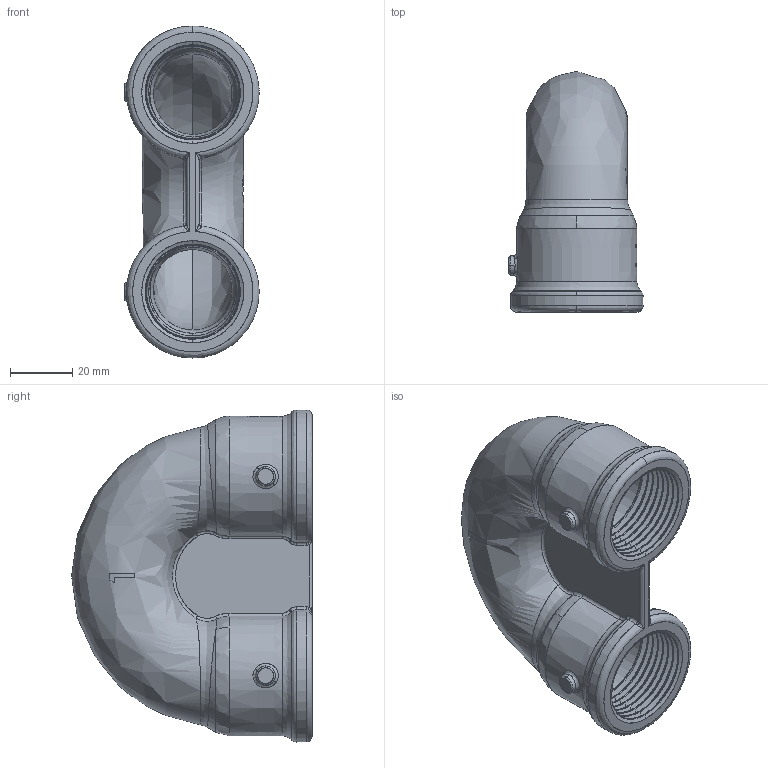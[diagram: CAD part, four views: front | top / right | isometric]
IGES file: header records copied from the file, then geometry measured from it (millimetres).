
Start section: SolidWorks IGES file using analytic representation for surfaces
Global section: file name: C:\Users\Joel Rosa\Desktop\Tubulação\12-29-OK\12-29-007.IGS; native system: SolidWorks 2011; preprocessor: SolidWorks 2011; author: Joel Rosa; date: 131026.112601; units: millimetre
Bounding box: 43.1 x 77.3 x 106.6 mm (x, y, z)
Surface area: 37302.2 mm2 (no closed solid volume)
Topology: 0 solids, 0 shells, 348 faces, 3414 edges, 3410 vertices
Faces by surface type: bspline 247, revolution 101
